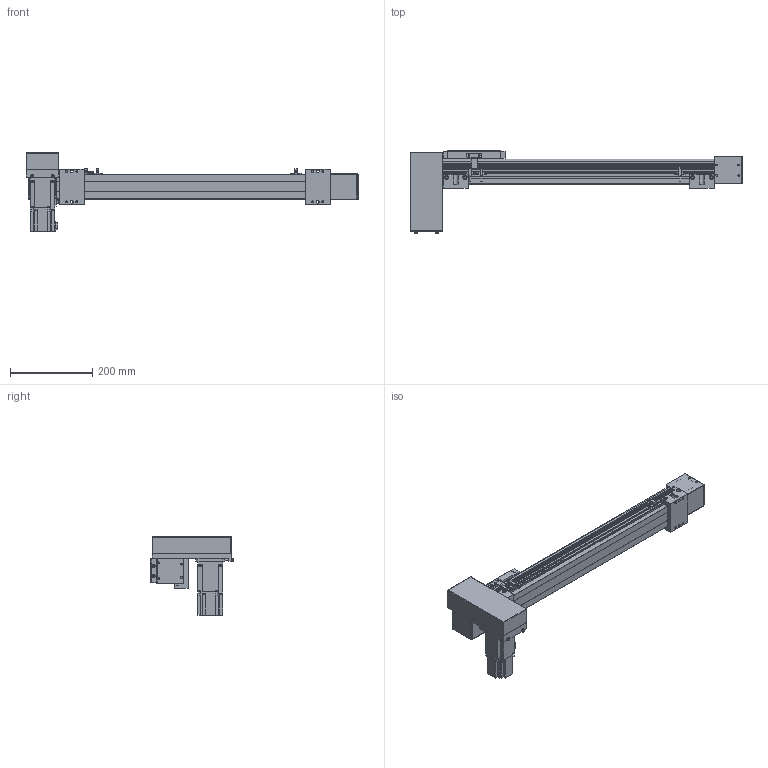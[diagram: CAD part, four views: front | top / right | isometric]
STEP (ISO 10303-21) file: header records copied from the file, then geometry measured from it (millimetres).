
FILE_DESCRIPTION(/* description */ ('STEP AP214'),/* implementation_level */ '2;1');
FILE_NAME(/* name */ 'SK60-P13-S500-RD-T40-C1-N(0)',/* time_stamp */ '2023-04-06T04:55:10+02:00',/* author */ ('License CC BY-ND 4.0'),/* organization */ ('CADENAS'),/* preprocessor_version */ 'ST-DEVELOPER v19.3',/* originating_system */ 'PARTsolutions',/* authorisation */ ' ');
FILE_SCHEMA (('AUTOMOTIVE_DESIGN {1 0 10303 214 3 1 1}'));
Length unit declared in the file: millimetre
Products named in the file (10): SK60-P13-S500-RD-T40-C1-N(0); PSC140-sensor; SK60-S450_seat; SK60-S450-BL-C1_slider; SK60_body3; SK60_body6; SK60-BL_body2; T40-p1; SK60-RD_fb; SK60-S500-RD-C1_body
Assembly tree (16 placements, depth 2):
  SK60-P13-S500-RD-T40-C1-N(0)
    PSC140-sensor  x3
    SK60-S450_seat  x2
    SK60-S450-BL-C1_slider
    SK60_body3  x3
    SK60_body6  x2
    SK60-BL_body2  x2
    T40-p1
    SK60-RD_fb
    SK60-S500-RD-C1_body
Bounding box: 805.5 x 199 x 189.7 mm (x, y, z)
Volume: 3968606.3 mm3; surface area: 531604.7 mm2
Topology: 16 solids, 16 shells, 810 faces, 2048 edges, 1349 vertices
Faces by surface type: plane 524, cylinder 262, cone 22, torus 2
Full cylindrical faces by diameter (mm): 2.8 x3, 3.3 x4, 4 x2, 4.5 x30, 4.6 x3, 4.917 x16, 5 x6, 5.478 x4, 5.5 x19, 6.5 x4, 7 x2, 8 x4, 8.5 x4, 9.988 x4, 10 x8, 14 x1, 47 x3, 50 x2
Entity records: 18655 total; most frequent: DIRECTION 3184, CARTESIAN_POINT 3150, ORIENTED_EDGE 2940, EDGE_CURVE 1470, AXIS2_PLACEMENT_3D 1068, LINE 1048, VECTOR 1048, VERTEX_POINT 1034
